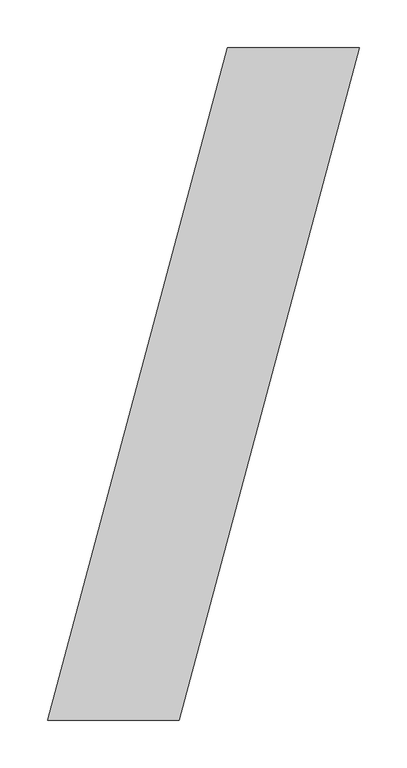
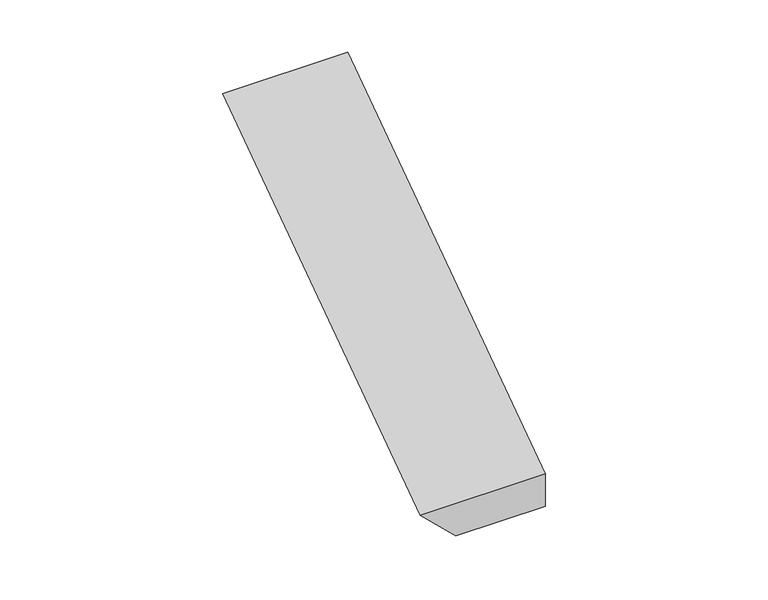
"""IFC4 building model written with IfcOpenShell, lengths in millimetres: proxy geometry, FOUNDATION^TABLE 5_60x180 LT END BASE-RIGHT END."""

from ifc_helpers import new_model, si_unit, origin, place, context, project, spatial, faceted_brep, source, transform, mapped, element, save


def generic_models_ef67edaf(model_context):
    return source(origin(), model_context, "Body", "Brep", [
        faceted_brep([(796.7300342, -704.85, -457.2), (895.3400904, -704.85, -457.2), (895.3400904, -704.85, -419.1), (757.2860117, -704.85, -419.1), (985.5940225, 0.0, -457.2), (1084.2040787, 0.0, -457.2), (946.15, 0.0, -419.1), (1084.2040787, 0.0, -419.1)], [[[0, 1, 2, 3]], [[1, 0, 4, 5]], [[0, 3, 6, 4]], [[3, 2, 7, 6]], [[2, 1, 5, 7]], [[5, 4, 6, 7]]]),
    ])


if __name__ == "__main__":
    model = new_model("IFC4")
    model_context = context("Model", 3, world=origin())
    ifc_project = project(units=[si_unit("LENGTHUNIT", "METRE", prefix="MILLI")], contexts=[model_context])
    site = spatial("IfcSite", under=ifc_project)
    building = spatial("IfcBuilding", under=site)
    placement = place(None, origin())
    generic_models_shape = generic_models_ef67edaf(model_context)
    element("IfcBuildingElementProxy", 1, Name="FOUNDATION^TABLE 5_60x180 LT END BASE-RIGHT END", ObjectType="FOUNDATION^TABLE 5_60x180 LT END BASE-RIGHT END", at=placement, inside=building, context=model_context, shape_type="MappedRepresentation", body=[
        mapped(generic_models_shape, transform((0.0, 0.0, 0.0), x_axis=(1.0, 0.0, 0.0), y_axis=(0.0, 1.0, 0.0), z_axis=(0.0, 0.0, 1.0))),
    ])
    save(model, "model.ifc")
